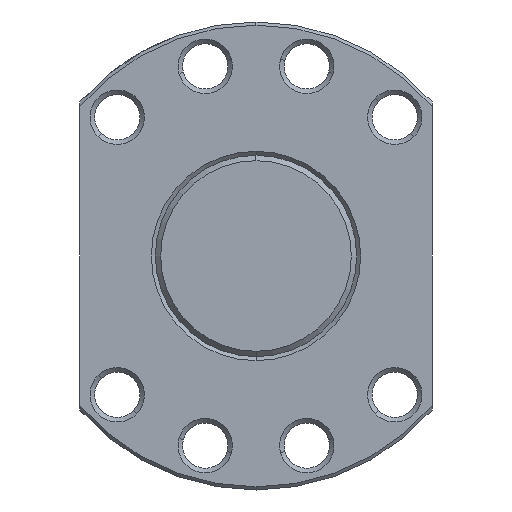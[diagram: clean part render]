
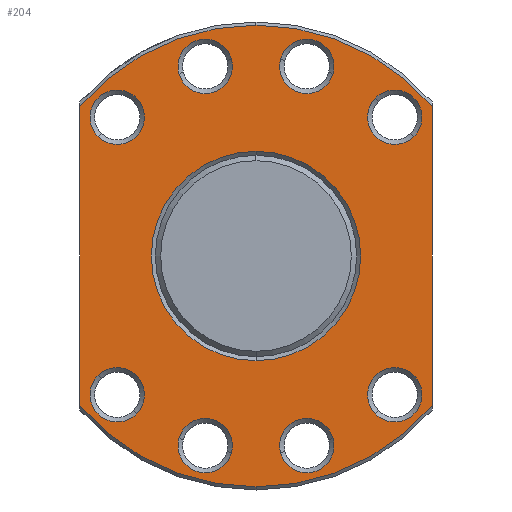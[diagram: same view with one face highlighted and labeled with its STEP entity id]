
A CAD part, left-side view. The second image highlights one B-rep face of the part: STEP entity #204.
In plain terms, the highlighted planar face has unit normal (-1, 0, 0).
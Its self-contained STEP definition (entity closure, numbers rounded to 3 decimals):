
#204=ADVANCED_FACE('',(#386,#387,#388,#389,#390,#391,#392,#393,#394,#395),#396,.T.);
#386=FACE_BOUND('',#587,.T.);
#387=FACE_OUTER_BOUND('',#588,.T.);
#388=FACE_BOUND('',#589,.T.);
#389=FACE_BOUND('',#590,.T.);
#390=FACE_BOUND('',#591,.T.);
#391=FACE_BOUND('',#592,.T.);
#392=FACE_BOUND('',#593,.T.);
#393=FACE_BOUND('',#594,.T.);
#394=FACE_BOUND('',#595,.T.);
#395=FACE_BOUND('',#596,.T.);
#396=PLANE('',#597);
#587=EDGE_LOOP('',(#1207,#1208));
#588=EDGE_LOOP('',(#1209,#1210,#1211,#1212,#1213,#1214));
#589=EDGE_LOOP('',(#1215,#1216));
#590=EDGE_LOOP('',(#1217,#1218));
#591=EDGE_LOOP('',(#1219,#1220));
#592=EDGE_LOOP('',(#1221,#1222));
#593=EDGE_LOOP('',(#1223,#1224));
#594=EDGE_LOOP('',(#1225,#1226));
#595=EDGE_LOOP('',(#1227,#1228));
#596=EDGE_LOOP('',(#1229,#1230));
#597=AXIS2_PLACEMENT_3D('',#1231,#1232,#1233);
#1207=ORIENTED_EDGE('',*,*,#1436,.T.);
#1208=ORIENTED_EDGE('',*,*,#1416,.T.);
#1209=ORIENTED_EDGE('',*,*,#1437,.T.);
#1210=ORIENTED_EDGE('',*,*,#1485,.F.);
#1211=ORIENTED_EDGE('',*,*,#1324,.F.);
#1212=ORIENTED_EDGE('',*,*,#1460,.T.);
#1213=ORIENTED_EDGE('',*,*,#1406,.F.);
#1214=ORIENTED_EDGE('',*,*,#1459,.F.);
#1215=ORIENTED_EDGE('',*,*,#1463,.T.);
#1216=ORIENTED_EDGE('',*,*,#1396,.T.);
#1217=ORIENTED_EDGE('',*,*,#1466,.T.);
#1218=ORIENTED_EDGE('',*,*,#1386,.T.);
#1219=ORIENTED_EDGE('',*,*,#1469,.T.);
#1220=ORIENTED_EDGE('',*,*,#1376,.T.);
#1221=ORIENTED_EDGE('',*,*,#1472,.T.);
#1222=ORIENTED_EDGE('',*,*,#1366,.T.);
#1223=ORIENTED_EDGE('',*,*,#1475,.T.);
#1224=ORIENTED_EDGE('',*,*,#1356,.T.);
#1225=ORIENTED_EDGE('',*,*,#1478,.T.);
#1226=ORIENTED_EDGE('',*,*,#1346,.T.);
#1227=ORIENTED_EDGE('',*,*,#1481,.T.);
#1228=ORIENTED_EDGE('',*,*,#1336,.T.);
#1229=ORIENTED_EDGE('',*,*,#1484,.T.);
#1230=ORIENTED_EDGE('',*,*,#1326,.T.);
#1231=CARTESIAN_POINT('',(25.0,0.0,22.94));
#1232=DIRECTION('',(-1.0,-0.0,0.));
#1233=DIRECTION('',(0.,0.0,-1.0));
#1324=EDGE_CURVE('',#1550,#1548,#1552,.T.);
#1326=EDGE_CURVE('',#1556,#1553,#1557,.T.);
#1336=EDGE_CURVE('',#1574,#1571,#1575,.T.);
#1346=EDGE_CURVE('',#1592,#1589,#1593,.T.);
#1356=EDGE_CURVE('',#1610,#1607,#1611,.T.);
#1366=EDGE_CURVE('',#1628,#1625,#1629,.T.);
#1376=EDGE_CURVE('',#1646,#1643,#1647,.T.);
#1386=EDGE_CURVE('',#1664,#1661,#1665,.T.);
#1396=EDGE_CURVE('',#1682,#1679,#1683,.T.);
#1406=EDGE_CURVE('',#1697,#1700,#1701,.T.);
#1416=EDGE_CURVE('',#1718,#1715,#1719,.T.);
#1436=EDGE_CURVE('',#1715,#1718,#1749,.T.);
#1437=EDGE_CURVE('',#1750,#1751,#1752,.T.);
#1459=EDGE_CURVE('',#1750,#1697,#1780,.T.);
#1460=EDGE_CURVE('',#1550,#1700,#1781,.T.);
#1463=EDGE_CURVE('',#1679,#1682,#1784,.T.);
#1466=EDGE_CURVE('',#1661,#1664,#1787,.T.);
#1469=EDGE_CURVE('',#1643,#1646,#1790,.T.);
#1472=EDGE_CURVE('',#1625,#1628,#1793,.T.);
#1475=EDGE_CURVE('',#1607,#1610,#1796,.T.);
#1478=EDGE_CURVE('',#1589,#1592,#1799,.T.);
#1481=EDGE_CURVE('',#1571,#1574,#1802,.T.);
#1484=EDGE_CURVE('',#1553,#1556,#1805,.T.);
#1485=EDGE_CURVE('',#1548,#1751,#1806,.T.);
#1548=VERTEX_POINT('',#1893);
#1550=VERTEX_POINT('',#1896);
#1552=CIRCLE('',#1907,45.88);
#1553=VERTEX_POINT('',#1908);
#1556=VERTEX_POINT('',#1912);
#1557=CIRCLE('',#1913,5.4);
#1571=VERTEX_POINT('',#1932);
#1574=VERTEX_POINT('',#1936);
#1575=CIRCLE('',#1937,5.4);
#1589=VERTEX_POINT('',#1956);
#1592=VERTEX_POINT('',#1960);
#1593=CIRCLE('',#1961,5.4);
#1607=VERTEX_POINT('',#1980);
#1610=VERTEX_POINT('',#1984);
#1611=CIRCLE('',#1985,5.4);
#1625=VERTEX_POINT('',#2004);
#1628=VERTEX_POINT('',#2008);
#1629=CIRCLE('',#2009,5.4);
#1643=VERTEX_POINT('',#2028);
#1646=VERTEX_POINT('',#2032);
#1647=CIRCLE('',#2033,5.4);
#1661=VERTEX_POINT('',#2052);
#1664=VERTEX_POINT('',#2056);
#1665=CIRCLE('',#2057,5.4);
#1679=VERTEX_POINT('',#2076);
#1682=VERTEX_POINT('',#2080);
#1683=CIRCLE('',#2081,5.4);
#1697=VERTEX_POINT('',#2100);
#1700=VERTEX_POINT('',#2104);
#1701=CIRCLE('',#2105,45.88);
#1715=VERTEX_POINT('',#2140);
#1718=VERTEX_POINT('',#2144);
#1719=CIRCLE('',#2145,20.8);
#1749=CIRCLE('',#2251,20.8);
#1750=VERTEX_POINT('',#2252);
#1751=VERTEX_POINT('',#2253);
#1752=LINE('',#2254,#2255);
#1780=CIRCLE('',#2323,45.88);
#1781=LINE('',#2324,#2325);
#1784=CIRCLE('',#2328,5.4);
#1787=CIRCLE('',#2331,5.4);
#1790=CIRCLE('',#2334,5.4);
#1793=CIRCLE('',#2337,5.4);
#1796=CIRCLE('',#2340,5.4);
#1799=CIRCLE('',#2343,5.4);
#1802=CIRCLE('',#2346,5.4);
#1805=CIRCLE('',#2349,5.4);
#1806=CIRCLE('',#2350,45.88);
#1893=CARTESIAN_POINT('',(25.0,0.,-45.88));
#1896=CARTESIAN_POINT('',(25.0,-35.0,-29.664));
#1907=AXIS2_PLACEMENT_3D('',#2421,#2422,#2423);
#1908=CARTESIAN_POINT('',(25.0,-23.759,31.396));
#1912=CARTESIAN_POINT('',(25.0,-31.396,23.759));
#1913=AXIS2_PLACEMENT_3D('',#2425,#2426,#2427);
#1932=CARTESIAN_POINT('',(25.0,-4.878,39.069));
#1936=CARTESIAN_POINT('',(25.0,-15.31,36.273));
#1937=AXIS2_PLACEMENT_3D('',#2443,#2444,#2445);
#1956=CARTESIAN_POINT('',(25.0,15.31,36.273));
#1960=CARTESIAN_POINT('',(25.0,4.878,39.069));
#1961=AXIS2_PLACEMENT_3D('',#2461,#2462,#2463);
#1980=CARTESIAN_POINT('',(25.0,31.396,23.759));
#1984=CARTESIAN_POINT('',(25.0,23.759,31.396));
#1985=AXIS2_PLACEMENT_3D('',#2479,#2480,#2481);
#2004=CARTESIAN_POINT('',(25.0,23.759,-31.396));
#2008=CARTESIAN_POINT('',(25.0,31.396,-23.759));
#2009=AXIS2_PLACEMENT_3D('',#2497,#2498,#2499);
#2028=CARTESIAN_POINT('',(25.0,4.878,-39.069));
#2032=CARTESIAN_POINT('',(25.0,15.31,-36.273));
#2033=AXIS2_PLACEMENT_3D('',#2515,#2516,#2517);
#2052=CARTESIAN_POINT('',(25.0,-15.31,-36.273));
#2056=CARTESIAN_POINT('',(25.0,-4.878,-39.069));
#2057=AXIS2_PLACEMENT_3D('',#2533,#2534,#2535);
#2076=CARTESIAN_POINT('',(25.0,-31.396,-23.759));
#2080=CARTESIAN_POINT('',(25.0,-23.759,-31.396));
#2081=AXIS2_PLACEMENT_3D('',#2551,#2552,#2553);
#2100=CARTESIAN_POINT('',(25.0,0.,45.88));
#2104=CARTESIAN_POINT('',(25.0,-35.0,29.664));
#2105=AXIS2_PLACEMENT_3D('',#2569,#2570,#2571);
#2140=CARTESIAN_POINT('',(25.0,0.0,20.8));
#2144=CARTESIAN_POINT('',(25.0,0.,-20.8));
#2145=AXIS2_PLACEMENT_3D('',#2585,#2586,#2587);
#2251=AXIS2_PLACEMENT_3D('',#2621,#2622,#2623);
#2252=CARTESIAN_POINT('',(25.0,35.0,29.664));
#2253=CARTESIAN_POINT('',(25.0,35.0,-29.664));
#2254=CARTESIAN_POINT('',(25.0,35.0,11.47));
#2255=VECTOR('',#2624,1.0);
#2323=AXIS2_PLACEMENT_3D('',#2668,#2669,#2670);
#2324=CARTESIAN_POINT('',(25.0,-35.0,11.47));
#2325=VECTOR('',#2671,1.0);
#2328=AXIS2_PLACEMENT_3D('',#2678,#2679,#2680);
#2331=AXIS2_PLACEMENT_3D('',#2687,#2688,#2689);
#2334=AXIS2_PLACEMENT_3D('',#2696,#2697,#2698);
#2337=AXIS2_PLACEMENT_3D('',#2705,#2706,#2707);
#2340=AXIS2_PLACEMENT_3D('',#2714,#2715,#2716);
#2343=AXIS2_PLACEMENT_3D('',#2723,#2724,#2725);
#2346=AXIS2_PLACEMENT_3D('',#2732,#2733,#2734);
#2349=AXIS2_PLACEMENT_3D('',#2741,#2742,#2743);
#2350=AXIS2_PLACEMENT_3D('',#2744,#2745,#2746);
#2421=CARTESIAN_POINT('',(25.0,0.0,0.0));
#2422=DIRECTION('',(1.0,0.0,-0.0));
#2423=DIRECTION('',(0.0,0.0,1.0));
#2425=CARTESIAN_POINT('',(25.0,-27.577,27.577));
#2426=DIRECTION('',(1.0,0.0,0.));
#2427=DIRECTION('',(0.,0.707,0.707));
#2443=CARTESIAN_POINT('',(25.0,-10.094,37.671));
#2444=DIRECTION('',(1.0,0.,0.));
#2445=DIRECTION('',(0.,0.966,0.259));
#2461=CARTESIAN_POINT('',(25.0,10.094,37.671));
#2462=DIRECTION('',(1.0,0.,0.));
#2463=DIRECTION('',(0.,0.966,-0.259));
#2479=CARTESIAN_POINT('',(25.0,27.577,27.577));
#2480=DIRECTION('',(1.0,0.0,0.));
#2481=DIRECTION('',(0.,0.707,-0.707));
#2497=CARTESIAN_POINT('',(25.0,27.577,-27.577));
#2498=DIRECTION('',(1.0,0.0,0.));
#2499=DIRECTION('',(0.,-0.707,-0.707));
#2515=CARTESIAN_POINT('',(25.0,10.094,-37.671));
#2516=DIRECTION('',(1.0,0.,0.));
#2517=DIRECTION('',(0.,-0.966,-0.259));
#2533=CARTESIAN_POINT('',(25.0,-10.094,-37.671));
#2534=DIRECTION('',(1.0,0.,0.));
#2535=DIRECTION('',(0.,-0.966,0.259));
#2551=CARTESIAN_POINT('',(25.0,-27.577,-27.577));
#2552=DIRECTION('',(1.0,0.0,0.));
#2553=DIRECTION('',(0.,-0.707,0.707));
#2569=CARTESIAN_POINT('',(25.0,0.0,0.0));
#2570=DIRECTION('',(1.0,0.0,-0.0));
#2571=DIRECTION('',(0.0,0.0,1.0));
#2585=CARTESIAN_POINT('',(25.0,0.0,0.0));
#2586=DIRECTION('',(1.0,0.0,0.));
#2587=DIRECTION('',(0.,0.0,1.0));
#2621=CARTESIAN_POINT('',(25.0,0.0,0.0));
#2622=DIRECTION('',(1.0,0.0,0.));
#2623=DIRECTION('',(0.,0.0,1.0));
#2624=DIRECTION('',(0.,0.0,-1.0));
#2668=CARTESIAN_POINT('',(25.0,0.0,0.0));
#2669=DIRECTION('',(1.0,0.0,-0.0));
#2670=DIRECTION('',(0.0,0.0,1.0));
#2671=DIRECTION('',(0.,0.0,1.0));
#2678=CARTESIAN_POINT('',(25.0,-27.577,-27.577));
#2679=DIRECTION('',(1.0,0.0,0.));
#2680=DIRECTION('',(0.,-0.707,0.707));
#2687=CARTESIAN_POINT('',(25.0,-10.094,-37.671));
#2688=DIRECTION('',(1.0,0.,0.));
#2689=DIRECTION('',(0.,-0.966,0.259));
#2696=CARTESIAN_POINT('',(25.0,10.094,-37.671));
#2697=DIRECTION('',(1.0,0.,0.));
#2698=DIRECTION('',(0.,-0.966,-0.259));
#2705=CARTESIAN_POINT('',(25.0,27.577,-27.577));
#2706=DIRECTION('',(1.0,0.0,0.));
#2707=DIRECTION('',(0.,-0.707,-0.707));
#2714=CARTESIAN_POINT('',(25.0,27.577,27.577));
#2715=DIRECTION('',(1.0,0.0,0.));
#2716=DIRECTION('',(0.,0.707,-0.707));
#2723=CARTESIAN_POINT('',(25.0,10.094,37.671));
#2724=DIRECTION('',(1.0,0.,0.));
#2725=DIRECTION('',(0.,0.966,-0.259));
#2732=CARTESIAN_POINT('',(25.0,-10.094,37.671));
#2733=DIRECTION('',(1.0,0.,0.));
#2734=DIRECTION('',(0.,0.966,0.259));
#2741=CARTESIAN_POINT('',(25.0,-27.577,27.577));
#2742=DIRECTION('',(1.0,0.0,0.));
#2743=DIRECTION('',(0.,0.707,0.707));
#2744=CARTESIAN_POINT('',(25.0,0.0,0.0));
#2745=DIRECTION('',(1.0,0.0,-0.0));
#2746=DIRECTION('',(0.0,0.0,1.0));
